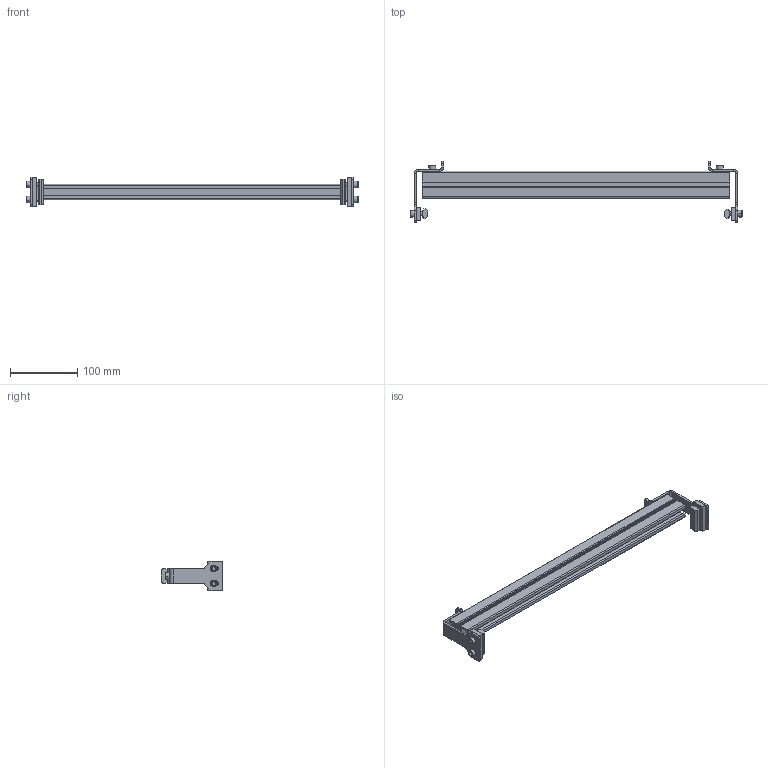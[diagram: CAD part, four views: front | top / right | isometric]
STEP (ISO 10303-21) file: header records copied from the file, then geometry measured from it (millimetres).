
FILE_DESCRIPTION (( 'STEP AP203' ), '1' );
FILE_NAME ('207137-18.STEP', '2018-07-05T13:29:06', ( '' ), ( '' ), 'SwSTEP 2.0', 'SolidWorks 2017', '' );
FILE_SCHEMA (( 'CONFIG_CONTROL_DESIGN' ));
Length unit declared in the file: inch
Products named in the file (8): 639971M_CAE; 207137-18; 202444; 200626M; 207135-WW_207135-18; 9206XXM_920620M; 207134; 9206XXM_920614M
Assembly tree (15 placements, depth 2):
  207137-18
    207134  x2
    207135-WW_207135-18
    202444  x2
    200626M  x2
    639971M_CAE  x2
    9206XXM_920614M  x2
    9206XXM_920620M  x4
Bounding box: 492.97 x 90.68 x 44.45 mm (x, y, z)
Volume: 230335.4 mm3; surface area: 142327 mm2
Topology: 15 solids, 15 shells, 432 faces, 1042 edges, 652 vertices
Faces by surface type: plane 258, cylinder 108, cone 66
Entity records: 8328 total; most frequent: CARTESIAN_POINT 1374, DIRECTION 1230, ORIENTED_EDGE 1212, EDGE_CURVE 606, LINE 462, VECTOR 462, VERTEX_POINT 388, AXIS2_PLACEMENT_3D 384
